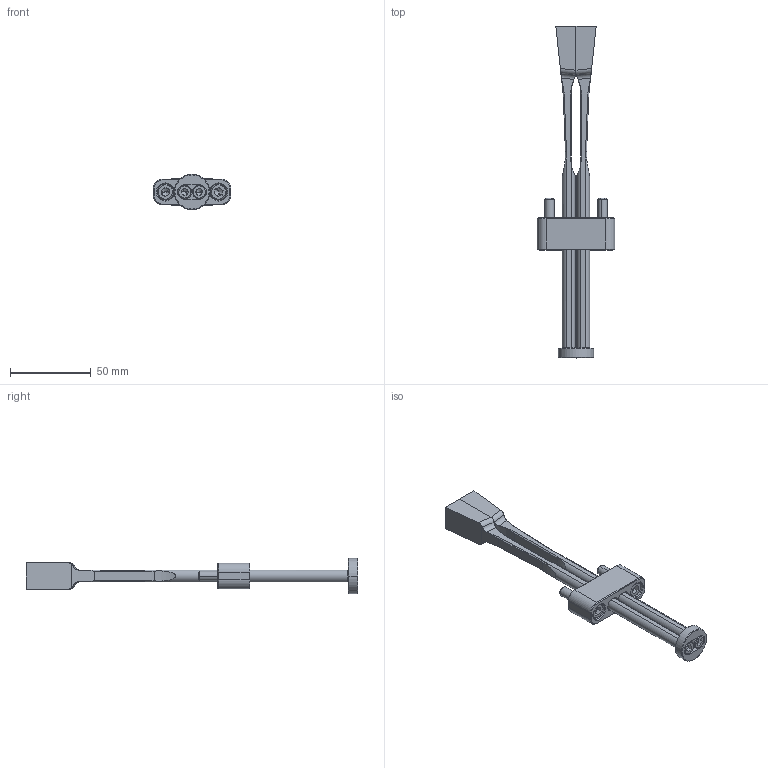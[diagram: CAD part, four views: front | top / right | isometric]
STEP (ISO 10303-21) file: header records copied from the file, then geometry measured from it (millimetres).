
FILE_DESCRIPTION (( 'STEP AP203' ), '1' );
FILE_NAME ('FCDA12X16L200.step', '2015-12-03T17:19:06', ( '' ), ( '' ), 'SwSTEP 2.0', 'SolidWorks 2014', '' );
FILE_SCHEMA (( 'CONFIG_CONTROL_DESIGN' ));
Length unit declared in the file: millimetre
Products named in the file (6): FCDA12X16L200; FCDHP-5; FCDBG-12; SHCS-M6X25; FC12X16L200; LOW-HD-SHCS-M5X16
Assembly tree (8 placements, depth 2):
  FCDA12X16L200
    FC12X16L200  x2
    FCDHP-5
    FCDBG-12
    SHCS-M6X25  x2
    LOW-HD-SHCS-M5X16  x2
Bounding box: 47.96 x 205.99 x 22 mm (x, y, z)
Volume: 39777.5 mm3; surface area: 22067.8 mm2
Topology: 8 solids, 8 shells, 280 faces, 649 edges, 386 vertices
Faces by surface type: plane 115, cone 76, cylinder 73, bspline 8, torus 8
Entity records: 6124 total; most frequent: CARTESIAN_POINT 1301, DIRECTION 885, ORIENTED_EDGE 834, EDGE_CURVE 417, AXIS2_PLACEMENT_3D 340, VERTEX_POINT 251, VECTOR 205, LINE 205
